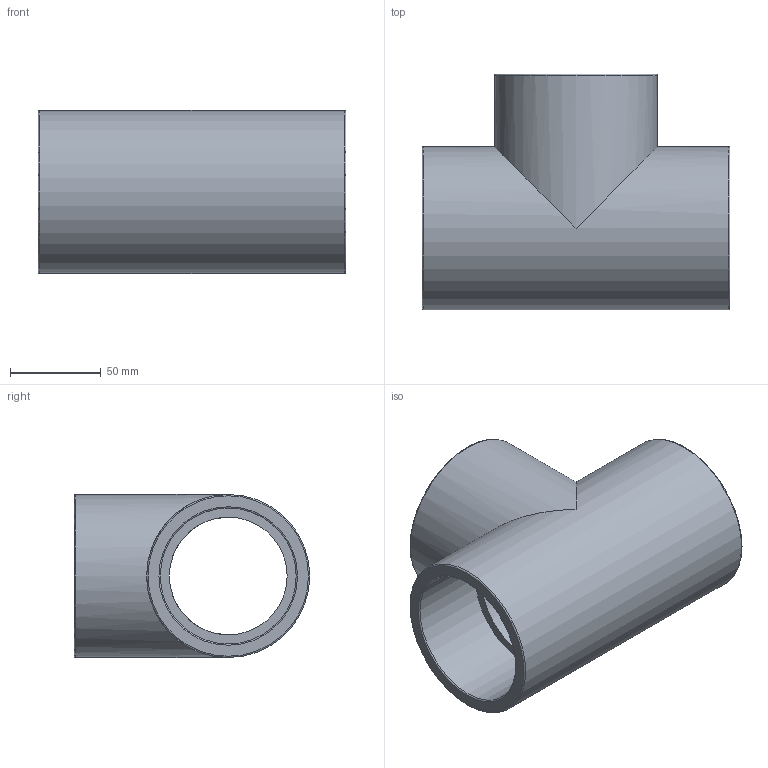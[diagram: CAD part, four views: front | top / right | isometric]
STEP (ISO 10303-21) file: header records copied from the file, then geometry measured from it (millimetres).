
FILE_DESCRIPTION(/* description */ ('PLASSON TEE THR-CEM PVC 75-2.1/2"'),/* implementation_level */ '2;1');
FILE_NAME(/* name */ 'C:\Dropbox\KIMPROJECTS-Inventor\99-16-3568-Processing\PVC Catalog 2017\050402\050402075025.ipt.stp',/* time_stamp */ '2017-12-07T15:55:19+02:00',/* author */ ('KIM'),/* organization */ (''),/* preprocessor_version */ 'ST-DEVELOPER v15.6',/* originating_system */ 'Autodesk Inventor 2015',/* authorisation */ '');
FILE_SCHEMA (('AUTOMOTIVE_DESIGN { 1 0 10303 214 3 1 1 }'));
Length unit declared in the file: millimetre
Products named in the file (1): 050402075025
Bounding box: 170 x 130 x 90 mm (x, y, z)
Volume: 505085.9 mm3; surface area: 111664.9 mm2
Topology: 1 solids, 1 shells, 18 faces, 39 edges, 25 vertices
Faces by surface type: cylinder 7, plane 6, torus 5
Full cylindrical faces by diameter (mm): 65.003 x2, 72.226 x1, 75 x2, 90 x2
Entity records: 426 total; most frequent: DIRECTION 80, CARTESIAN_POINT 61, ORIENTED_EDGE 42, AXIS2_PLACEMENT_3D 40, EDGE_LOOP 38, VERTEX_POINT 21, EDGE_CURVE 21, FACE_BOUND 20
